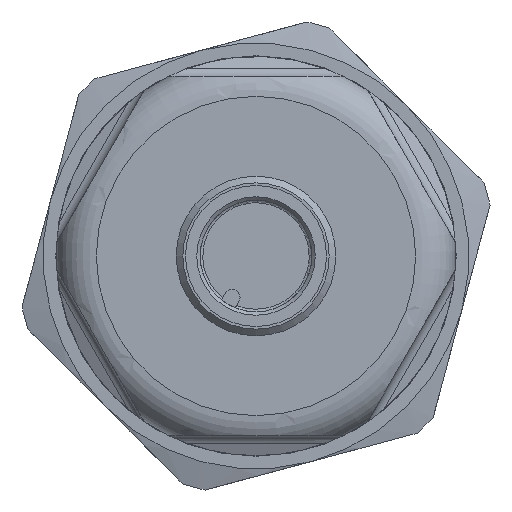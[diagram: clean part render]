
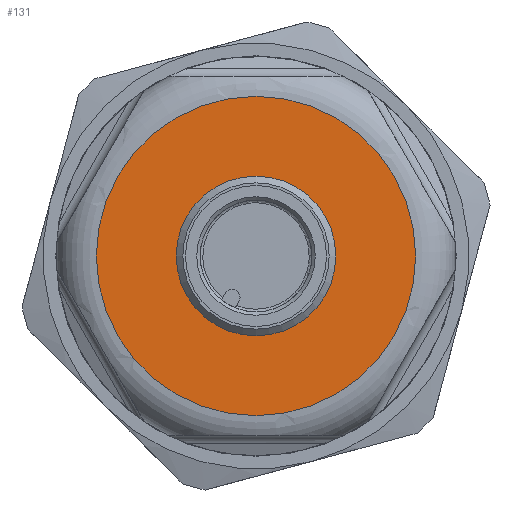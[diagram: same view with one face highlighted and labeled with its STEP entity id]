
A CAD part, left-side view. The second image highlights one B-rep face of the part: STEP entity #131.
In plain terms, the highlighted planar face has unit normal (-1, 0, 0).
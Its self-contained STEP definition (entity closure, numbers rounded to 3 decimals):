
#131 = ADVANCED_FACE( '', ( #305, #306 ), #307, .F. );
#305 = FACE_OUTER_BOUND( '', #570, .T. );
#306 = FACE_BOUND( '', #571, .T. );
#307 = PLANE( '', #572 );
#570 = EDGE_LOOP( '', ( #1065 ) );
#571 = EDGE_LOOP( '', ( #1066 ) );
#572 = AXIS2_PLACEMENT_3D( '', #1067, #1068, #1069 );
#1065 = ORIENTED_EDGE( '', *, *, #1388, .F. );
#1066 = ORIENTED_EDGE( '', *, *, #1389, .T. );
#1067 = CARTESIAN_POINT( '', ( 0., 0., 0. ) );
#1068 = DIRECTION( '', ( 1., 0., 0. ) );
#1069 = DIRECTION( '', ( 0., 0., -1. ) );
#1388 = EDGE_CURVE( '', #1642, #1642, #1643, .T. );
#1389 = EDGE_CURVE( '', #1644, #1644, #1645, .T. );
#1642 = VERTEX_POINT( '', #2512 );
#1643 = CIRCLE( '', #2513, 12. );
#1644 = VERTEX_POINT( '', #2514 );
#1645 = CIRCLE( '', #2515, 6. );
#2512 = CARTESIAN_POINT( '', ( 0., 0., -12. ) );
#2513 = AXIS2_PLACEMENT_3D( '', #2978, #2979, #2980 );
#2514 = CARTESIAN_POINT( '', ( 0., 0., -6. ) );
#2515 = AXIS2_PLACEMENT_3D( '', #2981, #2982, #2983 );
#2978 = CARTESIAN_POINT( '', ( 0., 0., 0. ) );
#2979 = DIRECTION( '', ( 1., 0., 0. ) );
#2980 = DIRECTION( '', ( 0., 0., -1. ) );
#2981 = CARTESIAN_POINT( '', ( 0., 0., 0. ) );
#2982 = DIRECTION( '', ( 1., 0., 0. ) );
#2983 = DIRECTION( '', ( 0., 0., -1. ) );
